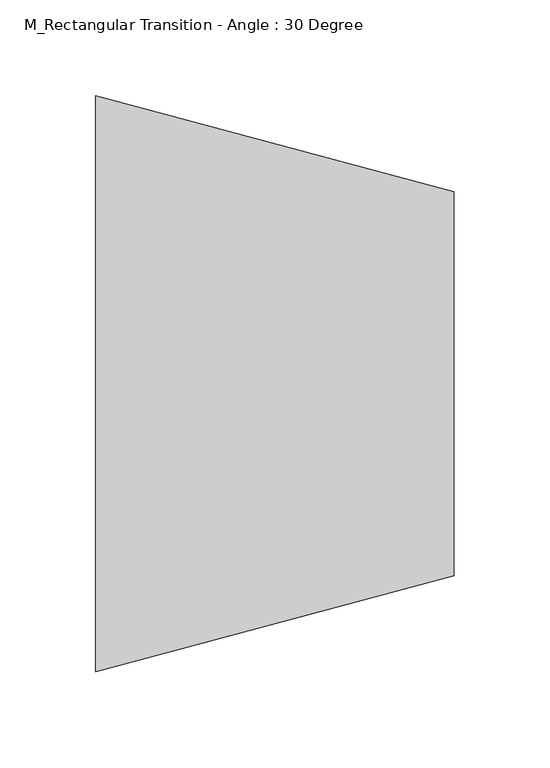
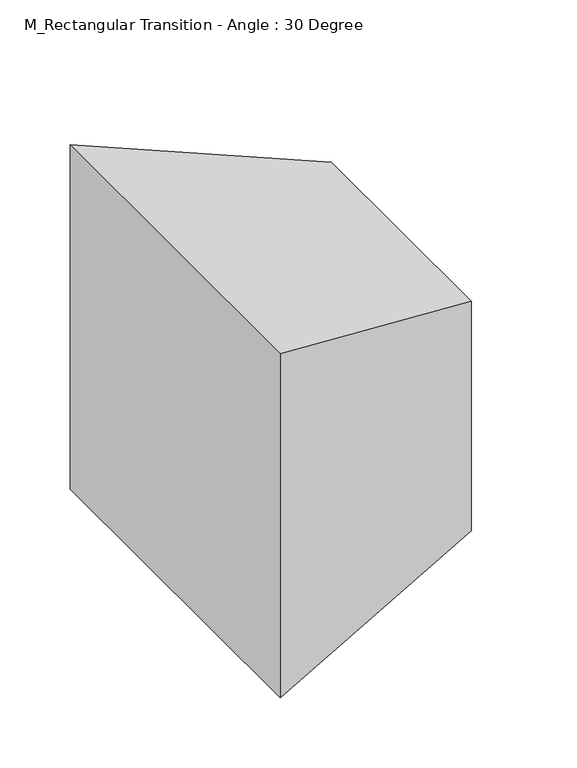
"""IFC4 building model written with IfcOpenShell, lengths in millimetres: duct fitting geometry, M_Rectangular Transition - Angle : 30 Degree."""

from ifc_helpers import new_model, si_unit, origin, place, context, project, spatial, faceted_brep, source, transform, mapped, element, save


def m_rectangular_transition_angle_30_degree_a9da263b(model_context):
    return source(origin(), model_context, "Body", "Brep", [
        faceted_brep([(186.6025404, -100.0, 100.0), (186.6025404, -100.0, -100.0), (186.6025404, 100.0, -100.0), (186.6025404, 100.0, 100.0), (0.0, -150.0, 150.0), (0.0, 150.0, 150.0), (0.0, 150.0, -150.0), (0.0, -150.0, -150.0)], [[[0, 1, 2, 3]], [[4, 5, 6, 7]], [[4, 7, 1, 0]], [[7, 6, 2, 1]], [[6, 5, 3, 2]], [[5, 4, 0, 3]]]),
    ])


if __name__ == "__main__":
    model = new_model("IFC4")
    model_context = context("Model", 3, world=origin())
    ifc_project = project(units=[si_unit("LENGTHUNIT", "METRE", prefix="MILLI")], contexts=[model_context])
    site = spatial("IfcSite", under=ifc_project)
    building = spatial("IfcBuilding", under=site)
    placement = place(None, origin())
    m_rectangular_transition_angle_30_degree_shape = m_rectangular_transition_angle_30_degree_a9da263b(model_context)
    element("IfcDuctFitting", 1, ObjectType="M_Rectangular Transition - Angle : 30 Degree", at=placement, inside=building, context=model_context, shape_type="MappedRepresentation", body=[
        mapped(m_rectangular_transition_angle_30_degree_shape, transform((0.0, 0.0, 0.0), x_axis=(1.0, 0.0, 0.0), y_axis=(0.0, 1.0, 0.0), z_axis=(0.0, 0.0, 1.0))),
    ])
    save(model, "model.ifc")
